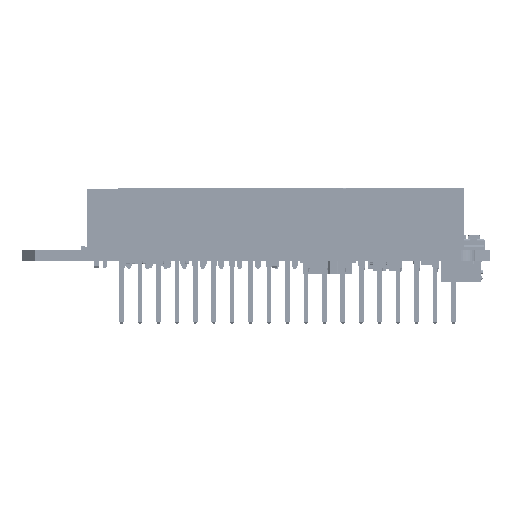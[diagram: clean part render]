
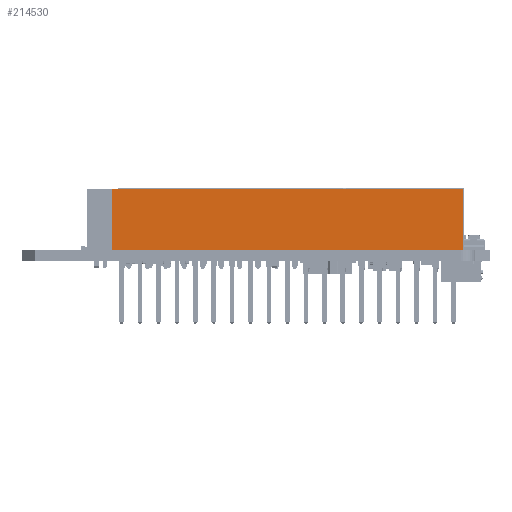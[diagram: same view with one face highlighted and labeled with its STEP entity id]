
A CAD part, left-side view. The second image highlights one B-rep face of the part: STEP entity #214530.
In plain terms, the highlighted planar face has unit normal (-1, 0, 0).
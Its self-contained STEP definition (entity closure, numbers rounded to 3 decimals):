
#214432 = EDGE_CURVE('',#214433,#214435,#214437,.T.);
#214433 = VERTEX_POINT('',#214434);
#214434 = CARTESIAN_POINT('',(-2.545,24.132,0.));
#214435 = VERTEX_POINT('',#214436);
#214436 = CARTESIAN_POINT('',(-2.545,24.132,8.38));
#214437 = LINE('',#214438,#214439);
#214438 = CARTESIAN_POINT('',(-2.545,24.132,0.));
#214439 = VECTOR('',#214440,1.);
#214440 = DIRECTION('',(0.,0.,1.));
#214505 = VERTEX_POINT('',#214506);
#214506 = CARTESIAN_POINT('',(-2.545,-24.132,8.38));
#214512 = EDGE_CURVE('',#214513,#214505,#214515,.T.);
#214513 = VERTEX_POINT('',#214514);
#214514 = CARTESIAN_POINT('',(-2.545,-24.132,0.));
#214515 = LINE('',#214516,#214517);
#214516 = CARTESIAN_POINT('',(-2.545,-24.132,0.));
#214517 = VECTOR('',#214518,1.);
#214518 = DIRECTION('',(0.,0.,1.));
#214530 = ADVANCED_FACE('',(#214531),#214547,.T.);
#214531 = FACE_BOUND('',#214532,.T.);
#214532 = EDGE_LOOP('',(#214533,#214534,#214540,#214541));
#214533 = ORIENTED_EDGE('',*,*,#214512,.T.);
#214534 = ORIENTED_EDGE('',*,*,#214535,.T.);
#214535 = EDGE_CURVE('',#214505,#214435,#214536,.T.);
#214536 = LINE('',#214537,#214538);
#214537 = CARTESIAN_POINT('',(-2.545,-24.132,8.38));
#214538 = VECTOR('',#214539,1.);
#214539 = DIRECTION('',(0.,1.,0.));
#214540 = ORIENTED_EDGE('',*,*,#214432,.F.);
#214541 = ORIENTED_EDGE('',*,*,#214542,.F.);
#214542 = EDGE_CURVE('',#214513,#214433,#214543,.T.);
#214543 = LINE('',#214544,#214545);
#214544 = CARTESIAN_POINT('',(-2.545,-24.132,0.));
#214545 = VECTOR('',#214546,1.);
#214546 = DIRECTION('',(0.,1.,0.));
#214547 = PLANE('',#214548);
#214548 = AXIS2_PLACEMENT_3D('',#214549,#214550,#214551);
#214549 = CARTESIAN_POINT('',(-2.545,-24.132,0.));
#214550 = DIRECTION('',(-1.,0.,0.));
#214551 = DIRECTION('',(0.,1.,0.));
